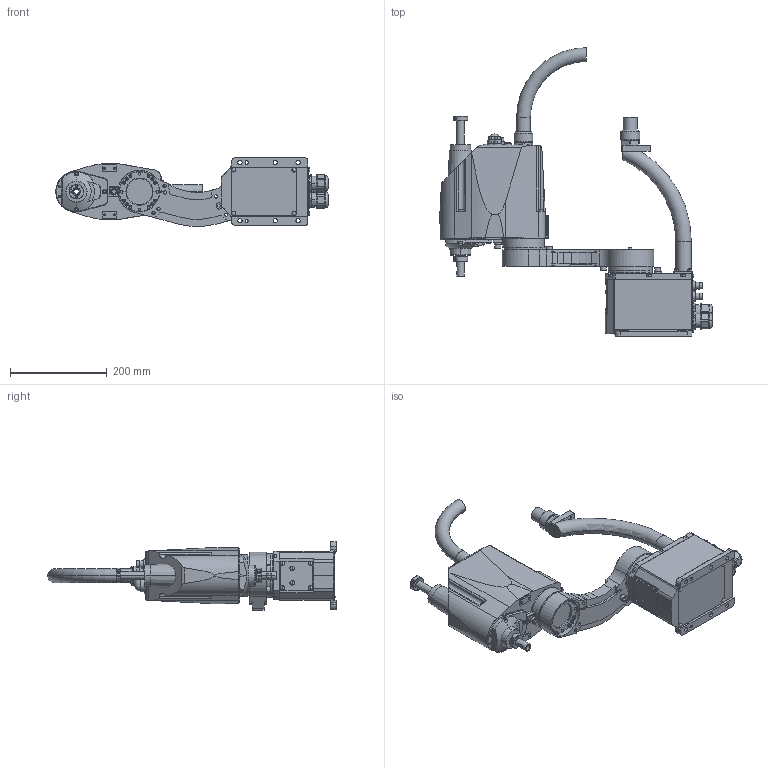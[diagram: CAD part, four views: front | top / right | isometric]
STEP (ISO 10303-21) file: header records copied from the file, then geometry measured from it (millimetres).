
FILE_DESCRIPTION( ( '' ), '1' );
FILE_NAME( '//expscmdclustefs.cadenas.external/client_exchange/iodir/jobs/output/wkb51510568_no0/STEP/G3_351S_R_2_14b.stp', '2012-11-22T14:55:41', ( '' ), ( '' ), ' ', ' ', ' ' );
FILE_SCHEMA( ( 'automotive_design' ) );
Length unit declared in the file: millimetre
Products named in the file (4): 1; 2; 3; 4
Bounding box: 561.5 x 595 x 141.44 mm (x, y, z)
Volume: 7648336.9 mm3; surface area: 541281.9 mm2
Topology: 4 solids, 4 shells, 1856 faces, 4638 edges, 2989 vertices
Faces by surface type: plane 876, cylinder 684, cone 181, torus 78, sphere 37
Entity records: 110116 total; most frequent: CARTESIAN_POINT 11356, DIRECTION 10066, STYLED_ITEM 9457, PRESENTATION_STYLE_ASSIGNMENT 9457, COLOUR_RGB 9457, ORIENTED_EDGE 9216, EDGE_CURVE 4608, CURVE_STYLE 4608
